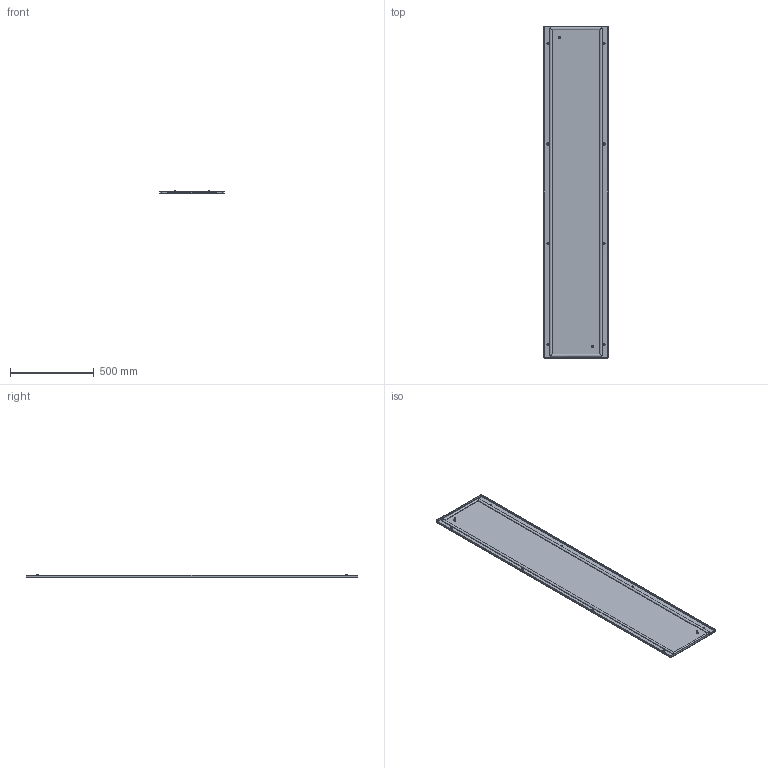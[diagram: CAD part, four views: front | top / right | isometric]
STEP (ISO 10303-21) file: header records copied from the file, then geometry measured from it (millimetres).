
FILE_DESCRIPTION(('STEP AP203'), '1');
FILE_NAME('Ïàíåëü çàäíÿÿ 2000õ400 ìì IP55 OptiBox M 419680 ÊÝÀÇ', '', ('UNSPECIFIED'), ('UNSPECIFIED'), 'C3D Converter', 'C3D Toolkit', '');
FILE_SCHEMA(('CONFIG_CONTROL_DESIGN'));
Length unit declared in the file: millimetre
Bounding box: 386 x 1986 x 18.9 mm (x, y, z)
Volume: 1568515.7 mm3; surface area: 1832820.6 mm2
Topology: 4 solids, 4 shells, 141 faces, 290 edges, 172 vertices
Faces by surface type: plane 79, cylinder 54, bspline 8
Full cylindrical faces by diameter (mm): 0.75 x2, 1 x2, 6.3 x8, 8 x2, 9.3 x2, 13 x2, 13.5 x8
Entity records: 4868 total; most frequent: CARTESIAN_POINT 1954, DIRECTION 572, ORIENTED_EDGE 528, EDGE_CURVE 264, AXIS2_PLACEMENT_3D 210, EDGE_LOOP 200, VERTEX_POINT 172, LINE 152
